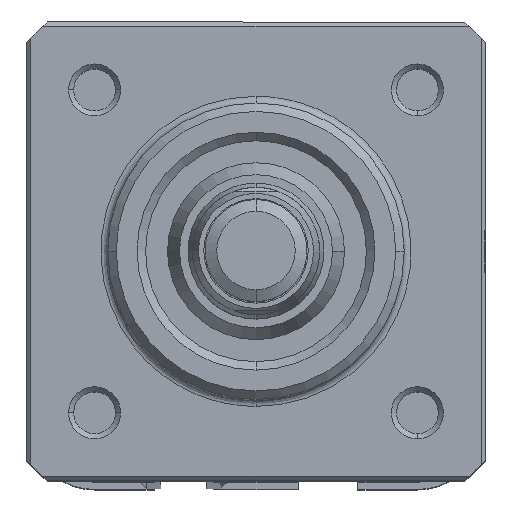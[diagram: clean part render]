
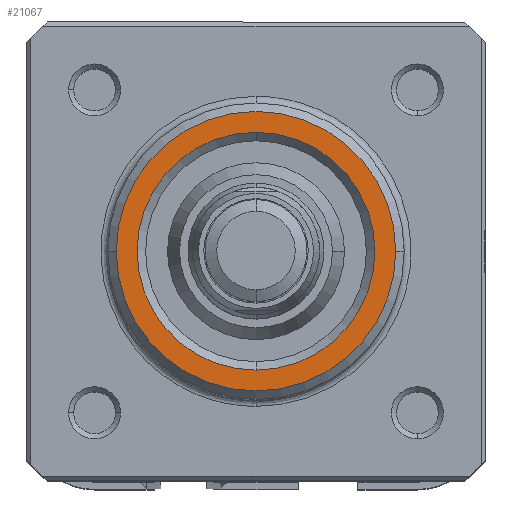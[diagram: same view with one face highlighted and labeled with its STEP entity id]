
A CAD part, top view. The second image highlights one B-rep face of the part: STEP entity #21067.
In plain terms, the highlighted planar face has unit normal (0, 0, 1).
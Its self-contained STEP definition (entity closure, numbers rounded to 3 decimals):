
#346 = PLANE ( 'NONE',  #20621 ) ;
#1663 = ORIENTED_EDGE ( 'NONE', *, *, #12378, .F. ) ;
#1900 = AXIS2_PLACEMENT_3D ( 'NONE', #23365, #9658, #11683 ) ;
#2206 = DIRECTION ( 'NONE',  ( 1., 0., 0. ) ) ;
#2541 = AXIS2_PLACEMENT_3D ( 'NONE', #20063, #4391, #24227 ) ;
#3527 = FACE_OUTER_BOUND ( 'NONE', #23751, .T. ) ;
#3809 = VERTEX_POINT ( 'NONE', #18031 ) ;
#4112 = DIRECTION ( 'NONE',  ( 0., 0., -1. ) ) ;
#4391 = DIRECTION ( 'NONE',  ( 0., 0., 1. ) ) ;
#6769 = VERTEX_POINT ( 'NONE', #10302 ) ;
#7380 = ORIENTED_EDGE ( 'NONE', *, *, #10980, .F. ) ;
#9100 = AXIS2_PLACEMENT_3D ( 'NONE', #19903, #16089, #2206 ) ;
#9658 = DIRECTION ( 'NONE',  ( 0., 0., 1. ) ) ;
#10274 = CARTESIAN_POINT ( 'NONE',  ( 15.768, 38.535, 133.757 ) ) ;
#10302 = CARTESIAN_POINT ( 'NONE',  ( 15.768, 10.535, 133.757 ) ) ;
#10403 = AXIS2_PLACEMENT_3D ( 'NONE', #21952, #4112, #15797 ) ;
#10444 = ORIENTED_EDGE ( 'NONE', *, *, #11513, .F. ) ;
#10633 = CIRCLE ( 'NONE', #9100, 16.45 ) ;
#10980 = EDGE_CURVE ( 'NONE', #3809, #22027, #10633, .T. ) ;
#11513 = EDGE_CURVE ( 'NONE', #25652, #6769, #21200, .T. ) ;
#11683 = DIRECTION ( 'NONE',  ( 0., 1., 0. ) ) ;
#12140 = DIRECTION ( 'NONE',  ( 1., 0., 0. ) ) ;
#12378 = EDGE_CURVE ( 'NONE', #22027, #3809, #25155, .T. ) ;
#13272 = EDGE_CURVE ( 'NONE', #6769, #25652, #13787, .T. ) ;
#13787 = CIRCLE ( 'NONE', #1900, 14. ) ;
#14036 = EDGE_LOOP ( 'NONE', ( #10444, #20769 ) ) ;
#15797 = DIRECTION ( 'NONE',  ( 1., 0., 0. ) ) ;
#16089 = DIRECTION ( 'NONE',  ( 0., 0., -1. ) ) ;
#17055 = CARTESIAN_POINT ( 'NONE',  ( 32.218, 24.535, 133.757 ) ) ;
#18031 = CARTESIAN_POINT ( 'NONE',  ( -0.682, 24.535, 133.757 ) ) ;
#19903 = CARTESIAN_POINT ( 'NONE',  ( 15.768, 24.535, 133.757 ) ) ;
#20063 = CARTESIAN_POINT ( 'NONE',  ( 15.768, 24.535, 133.757 ) ) ;
#20262 = CARTESIAN_POINT ( 'NONE',  ( 42.768, -2.465, 133.757 ) ) ;
#20436 = DIRECTION ( 'NONE',  ( 0., 0., -1. ) ) ;
#20621 = AXIS2_PLACEMENT_3D ( 'NONE', #20262, #20436, #12140 ) ;
#20705 = FACE_BOUND ( 'NONE', #14036, .T. ) ;
#20769 = ORIENTED_EDGE ( 'NONE', *, *, #13272, .F. ) ;
#21067 = ADVANCED_FACE ( 'NONE', ( #3527, #20705 ), #346, .F. ) ;
#21200 = CIRCLE ( 'NONE', #2541, 14. ) ;
#21952 = CARTESIAN_POINT ( 'NONE',  ( 15.768, 24.535, 133.757 ) ) ;
#22027 = VERTEX_POINT ( 'NONE', #17055 ) ;
#23365 = CARTESIAN_POINT ( 'NONE',  ( 15.768, 24.535, 133.757 ) ) ;
#23751 = EDGE_LOOP ( 'NONE', ( #1663, #7380 ) ) ;
#24227 = DIRECTION ( 'NONE',  ( 0., 1., 0. ) ) ;
#25155 = CIRCLE ( 'NONE', #10403, 16.45 ) ;
#25652 = VERTEX_POINT ( 'NONE', #10274 ) ;
